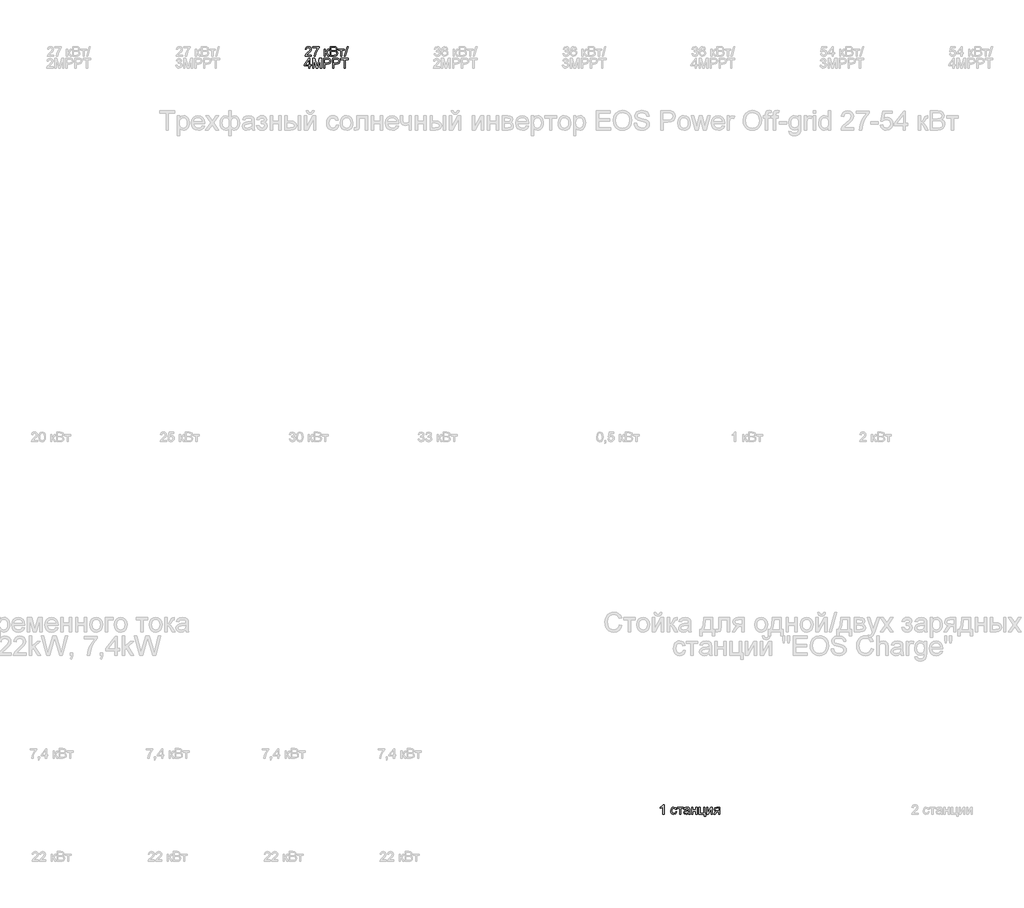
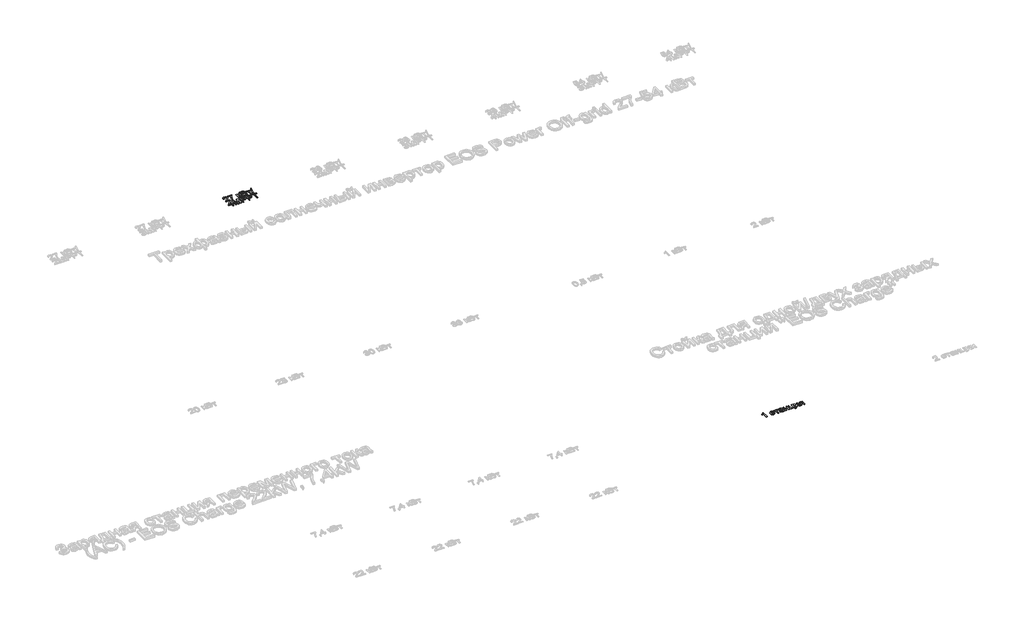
# One storey, part 7 of 26: 2 proxies.
"""IFC4 building model written with IfcOpenShell, lengths in millimetres."""

import ifcopenshell
import ifcopenshell.guid

model = None  # the IFC model being written
_history = None  # IfcOwnerHistory: only IFC2X3 demands one
_inside = {}  # id of a spatial element -> (the spatial element, [elements in it])
_under = {}  # id of a project, library or spatial element -> (it, [spatial elements below it])
_declared = {}  # id of a project -> (the project, [libraries it declares])
_typed = {}  # id of a type object -> (the type object, [elements of that type])
_made_of = {}  # id of a material, layer set ... -> (it, [elements and type objects made of it])


def new_model(schema):
    """Start an empty IFC model of exactly this schema.

    Asked for "IFC4X3", IfcOpenShell would pick the latest addendum, in which some entities
    have other attributes; the version numbers below select the first issue.
    IFC2X3 requires an IfcOwnerHistory on every rooted entity: one is made here for all.
    """
    global model, _history
    if schema == "IFC4X3":
        model = ifcopenshell.file(schema_version=(4, 3, 0, 0))
    else:
        model = ifcopenshell.file(schema=schema)
    _inside.clear()
    _under.clear()
    _declared.clear()
    _typed.clear()
    _made_of.clear()
    _history = None
    if model.schema == "IFC2X3":
        org = make("IfcOrganization", Name="unknown")
        user = make(
            "IfcPersonAndOrganization",
            ThePerson=make("IfcPerson", FamilyName="unknown"),
            TheOrganization=org,
        )
        app = make(
            "IfcApplication",
            ApplicationDeveloper=org,
            Version="unknown",
            ApplicationFullName="unknown",
            ApplicationIdentifier="unknown",
        )
        _history = make(
            "IfcOwnerHistory",
            OwningUser=user,
            OwningApplication=app,
            ChangeAction="ADDED",
            CreationDate=0,
        )
    return model


def make(cls, **values):
    """One entity of the class cls with the attributes given. An attribute that is None is left unset."""
    return model.create_entity(
        cls, **{name: value for name, value in values.items() if value is not None}
    )


def rooted(cls, **values):
    """An entity with a GlobalId (a new one), such as an element, a storey or a relation."""
    return make(cls, GlobalId=ifcopenshell.guid.new(), OwnerHistory=_history, **values)


def si_unit(unit_type, name, prefix=None):
    """IfcSIUnit, for example si_unit("LENGTHUNIT", "METRE", prefix="MILLI")."""
    return make("IfcSIUnit", UnitType=unit_type, Prefix=prefix, Name=name)


def assignment(units):
    """IfcUnitAssignment: the units of a project."""
    return None if units is None else make("IfcUnitAssignment", Units=units)


def point(xyz):
    """IfcCartesianPoint."""
    return None if xyz is None else make("IfcCartesianPoint", Coordinates=xyz)


def direction(xyz):
    """IfcDirection."""
    return None if xyz is None else make("IfcDirection", DirectionRatios=xyz)


def frame(location, z_axis=None, x_axis=None):
    """IfcAxis2Placement3D, a coordinate frame: its origin and axes. An axis left out is left unset."""
    return make(
        "IfcAxis2Placement3D",
        Location=point(location),
        Axis=direction(z_axis),
        RefDirection=direction(x_axis),
    )


def origin():
    """The frame at (0, 0, 0) with its axes left unset."""
    return frame((0.0, 0.0, 0.0))


def origin_with_axes():
    """The frame at (0, 0, 0) with the z axis (0, 0, 1) and the x axis (1, 0, 0) written out."""
    return frame((0.0, 0.0, 0.0), z_axis=(0.0, 0.0, 1.0), x_axis=(1.0, 0.0, 0.0))


def place(relative_to, where):
    """IfcLocalPlacement: puts the frame where relative to a parent placement (None: the world)."""
    return make(
        "IfcLocalPlacement", PlacementRelTo=relative_to, RelativePlacement=where
    )


def context(
    kind, dimensions, precision=None, world=None, true_north=None, identifier=None
):
    """IfcGeometricRepresentationContext, for example the 3D "Model" context."""
    return make(
        "IfcGeometricRepresentationContext",
        ContextIdentifier=identifier,
        ContextType=kind,
        CoordinateSpaceDimension=dimensions,
        Precision=precision,
        WorldCoordinateSystem=world,
        TrueNorth=true_north,
    )


def project(units=None, contexts=None):
    """IfcProject with its units and contexts."""
    return rooted(
        "IfcProject",
        Name="project",
        RepresentationContexts=contexts,
        UnitsInContext=assignment(units),
    )


def spatial(cls, under=None, at=None, **own):
    """A site, building, storey or space (cls), placed at a placement, below another one or the project."""
    s = rooted(cls, ObjectPlacement=at, **own)
    if under is not None:
        _under.setdefault(under.id(), (under, []))[1].append(s)
    return s


def polyline(points):
    """IfcPolyline through the points."""
    return make("IfcPolyline", Points=[point(p) for p in points])


def outline(outer, holes=None, kind="AREA"):
    """IfcArbitraryClosedProfileDef: a profile drawn as a closed curve; with holes, ...WithVoids."""
    if holes is None:
        return make("IfcArbitraryClosedProfileDef", ProfileType=kind, OuterCurve=outer)
    return make(
        "IfcArbitraryProfileDefWithVoids",
        ProfileType=kind,
        OuterCurve=outer,
        InnerCurves=holes,
    )


def extrude(swept, where, along, depth):
    """IfcExtrudedAreaSolid: the profile swept, set in the frame where, extruded along a direction by depth."""
    return make(
        "IfcExtrudedAreaSolid",
        SweptArea=swept,
        Position=where,
        ExtrudedDirection=direction(along),
        Depth=depth,
    )


def shape(context_of_items, identifier, shape_type, items):
    """IfcShapeRepresentation: the items that make up one representation, for example the "Body"."""
    return make(
        "IfcShapeRepresentation",
        ContextOfItems=context_of_items,
        RepresentationIdentifier=identifier,
        RepresentationType=shape_type,
        Items=items,
    )


def made_of(thing, what):
    """Note that an element or type object is made of a material, layer set ...; save() writes the relation."""
    if what is not None:
        _made_of.setdefault(what.id(), (what, []))[1].append(thing)
    return thing


def element(
    cls,
    number,
    at=None,
    inside=None,
    cuts=None,
    type_object=None,
    material=None,
    context=None,
    identifier="Body",
    shape_type=None,
    held_by="IfcProductDefinitionShape",
    body=None,
    shapes=None,
    **own,
):
    """One element of the class cls, such as IfcWall. Its Tag is "e" and its number.

    at: its placement. inside: the storey or other place that contains it. cuts: it is an
    opening in that element (IfcRelVoidsElement). A single representation is given by context,
    identifier, shape_type and body (its items); several are given by shapes. held_by: the class
    of the entity that holds the representations. save() writes the other relations.
    """
    e = rooted(cls, Tag="e%d" % number, ObjectPlacement=at, **own)
    if body is not None:
        shapes = [shape(context, identifier, shape_type, body)]
    if shapes is not None:
        e.Representation = make(held_by, Representations=shapes)
    if inside is not None:
        _inside.setdefault(inside.id(), (inside, []))[1].append(e)
    if cuts is not None:
        rooted(
            "IfcRelVoidsElement", RelatingBuildingElement=cuts, RelatedOpeningElement=e
        )
    if type_object is not None:
        _typed.setdefault(type_object.id(), (type_object, []))[1].append(e)
    return made_of(e, material)


def aggregate(whole, parts):
    """IfcRelAggregates: a whole, such as a stair, and the parts it consists of."""
    return rooted("IfcRelAggregates", RelatingObject=whole, RelatedObjects=parts)


def save(model, path):
    """Write the relations noted so far, then the file.

    IfcRelAggregates (storeys below a building ...), IfcRelContainedInSpatialStructure (elements
    in a storey), IfcRelDefinesByType, IfcRelAssociatesMaterial and IfcRelDeclares: one each for
    every whole, place, type object, material and project.
    """
    for whole, parts in _under.values():
        aggregate(whole, parts)
    for where, things in _inside.values():
        rooted(
            "IfcRelContainedInSpatialStructure",
            RelatedElements=things,
            RelatingStructure=where,
        )
    for kind, things in _typed.values():
        rooted("IfcRelDefinesByType", RelatedObjects=things, RelatingType=kind)
    for what, things in _made_of.values():
        rooted("IfcRelAssociatesMaterial", RelatedObjects=things, RelatingMaterial=what)
    for by, libraries in _declared.values():
        rooted("IfcRelDeclares", RelatingContext=by, RelatedDefinitions=libraries)
    model.write(path)


model = new_model("IFC4")

# Units and contexts
model_context = context("Model", 3, world=origin())
ifc_project = project(units=[si_unit("LENGTHUNIT", "METRE", prefix="MILLI")], contexts=[model_context])

# Site, building, storey
site = spatial("IfcSite", under=ifc_project)
building = spatial("IfcBuilding", under=site)
storey = spatial("IfcBuildingStorey", under=building, Name="Этаж 01", Elevation=0.0)

# Proxies
placement = place(None, origin())
element("IfcBuildingElementProxy", 1, Name="75 мм Arial", ObjectType="75 мм Arial", at=placement, inside=storey, context=model_context, shape_type="SweptSolid", body=[
    extrude(outline(polyline([(7255.824672, -16652.0992272), (7255.824672, -16661.5170063), (7206.3813318, -16661.5170063), (7207.3930073, -16655.0238891), (7213.1135723, -16645.0266959), (7224.9041903, -16634.1097977), (7241.1645745, -16618.4196306), (7245.2296705, -16607.7510527), (7241.3945007, -16599.1150229), (7231.3789134, -16595.5925528), (7220.9402618, -16599.0322494), (7216.9763333, -16608.541999), (7207.5585542, -16607.3647766), (7209.8417218, -16598.2550987), (7214.7782384, -16591.6010331), (7222.1105864, -16587.5313386), (7231.5812485, -16586.1747737), (7241.1208885, -16587.6830899), (7248.4394409, -16592.2080384), (7253.0954474, -16598.9678701), (7254.6474496, -16607.1808356), (7252.9735865, -16616.1111711), (7247.4093713, -16625.3450091), (7233.9172992, -16638.2484701), (7223.0831744, -16647.3075643), (7218.8341373, -16652.0992272), (7255.824672, -16652.0992272)])), origin_with_axes(), (0.0, 0.0, 1.0), 5.0),
    extrude(outline(polyline([(7265.242451, -16596.7697752), (7265.242451, -16587.3519961), (7314.6857912, -16587.3519961), (7314.6857912, -16594.9671534), (7300.6602901, -16615.2282543), (7289.9273329, -16641.0443733), (7286.432454, -16661.5170063), (7277.0146749, -16661.5170063), (7280.7578742, -16640.2718211), (7291.0309789, -16616.2583239), (7305.2680121, -16596.7697752), (7265.242451, -16596.7697752)])), origin_with_axes(), (0.0, 0.0, 1.0), 5.0),
    extrude(outline(polyline([(7354.7113523, -16606.1875542), (7364.1291313, -16606.1875542), (7364.1291313, -16629.7320019), (7370.4383076, -16628.0397448), (7375.6070496, -16618.1805073), (7379.9020719, -16609.6732362), (7383.6912564, -16606.9049241), (7390.5798468, -16606.1875542), (7392.3824686, -16606.1875542), (7392.3824686, -16615.6605156), (7389.8440828, -16615.6053333), (7385.2455579, -16616.5986147), (7382.0081963, -16622.7974263), (7378.2098147, -16629.5020757), (7372.8847228, -16632.7854225), (7384.6569467, -16644.1713703), (7394.7369133, -16661.5170063), (7384.0315473, -16661.5170063), (7374.1539157, -16644.5392522), (7369.1875088, -16637.3563563), (7364.1291313, -16635.6181139), (7364.1291313, -16661.5170063), (7354.7113523, -16661.5170063), (7354.7113523, -16606.1875542)])), origin_with_axes(), (0.0, 0.0, 1.0), 5.0),
    extrude(outline(polyline([(7401.8002476, -16661.5170063), (7401.8002476, -16586.1747737), (7430.5502256, -16586.1747737), (7444.6309089, -16588.3912627), (7452.945042, -16595.2062767), (7455.9524773, -16604.844785), (7453.4232886, -16613.6463617), (7445.7805402, -16620.3142229), (7455.0603635, -16627.340769), (7458.3069221, -16639.0578105), (7456.0904331, -16649.1837624), (7450.5997943, -16656.3942495), (7442.4052229, -16660.2202223), (7430.3294964, -16661.5170063), (7401.8002476, -16661.5170063)]), holes=[polyline([(7411.2180267, -16652.0992272), (7430.5318315, -16652.0992272), (7437.5215894, -16651.7313453), (7443.4352925, -16649.6804031), (7447.3532357, -16645.4957454), (7448.889143, -16639.149781), (7447.0865213, -16631.8289293), (7441.2463946, -16627.4603306), (7429.6121265, -16626.2003348), (7411.2180267, -16626.2003348), (7411.2180267, -16652.0992272)]), polyline([(7411.2180267, -16616.7825557), (7428.41651, -16616.7825557), (7438.4596885, -16615.9732153), (7444.5021502, -16612.4875334), (7446.5346983, -16606.3531011), (7444.640106, -16600.2094718), (7439.2138466, -16596.5766371), (7427.1105289, -16595.5925528), (7411.2180267, -16595.5925528), (7411.2180267, -16616.7825557)])]), origin_with_axes(), (0.0, 0.0, 1.0), 5.0),
    extrude(outline(polyline([(7465.3702564, -16606.1875542), (7510.104707, -16606.1875542), (7510.104707, -16615.6053333), (7492.4463713, -16615.6053333), (7492.4463713, -16661.5170063), (7483.0285922, -16661.5170063), (7483.0285922, -16615.6053333), (7465.3702564, -16615.6053333), (7465.3702564, -16606.1875542)])), origin_with_axes(), (0.0, 0.0, 1.0), 5.0),
    extrude(outline(polyline([(7511.2819294, -16661.5170063), (7532.4719323, -16586.1747737), (7540.9700064, -16586.1747737), (7519.7800035, -16661.5170063), (7511.2819294, -16661.5170063)])), origin_with_axes(), (0.0, 0.0, 1.0), 5.0),
    extrude(outline(polyline([(7234.0460578, -16752.9981197), (7234.0460578, -16735.3397839), (7199.9066087, -16735.3397839), (7199.9066087, -16725.9220049), (7236.4005026, -16678.8331095), (7243.4638369, -16678.8331095), (7243.4638369, -16725.9220049), (7252.881616, -16725.9220049), (7252.881616, -16735.3397839), (7243.4638369, -16735.3397839), (7243.4638369, -16752.9981197), (7234.0460578, -16752.9981197)]), holes=[polyline([(7234.0460578, -16725.9220049), (7234.0460578, -16696.822539), (7211.4948915, -16725.9220049), (7234.0460578, -16725.9220049)])]), origin_with_axes(), (0.0, 0.0, 1.0), 5.0),
    extrude(outline(polyline([(7264.6538398, -16752.9981197), (7264.6538398, -16677.6558871), (7280.8590417, -16677.6558871), (7296.2732973, -16730.7596531), (7299.3819002, -16741.8512953), (7302.7480204, -16729.8399481), (7317.9047586, -16677.6558871), (7334.1099605, -16677.6558871), (7334.1099605, -16752.9981197), (7324.6921815, -16752.9981197), (7324.6921815, -16687.0736662), (7305.7646528, -16752.9981197), (7292.9991476, -16752.9981197), (7274.0716189, -16687.0736662), (7274.0716189, -16752.9981197), (7264.6538398, -16752.9981197)])), origin_with_axes(), (0.0, 0.0, 1.0), 5.0),
    extrude(outline(polyline([(7350.5910739, -16752.9981197), (7350.5910739, -16677.6558871), (7378.5133174, -16677.6558871), (7389.7705064, -16678.373257), (7398.921571, -16681.8957271), (7404.8536682, -16689.1797906), (7407.0977484, -16699.4528953), (7405.5825344, -16708.332647), (7401.0368925, -16715.7316736), (7392.5365192, -16720.7256717), (7379.1571108, -16722.3903377), (7360.008853, -16722.3903377), (7360.008853, -16752.9981197), (7350.5910739, -16752.9981197)]), holes=[polyline([(7360.008853, -16712.9725586), (7379.7089338, -16712.9725586), (7393.5780851, -16709.5144679), (7397.6799693, -16699.7839891), (7395.2611452, -16691.9848908), (7388.9059837, -16687.7174597), (7379.4882046, -16687.0736662), (7360.008853, -16687.0736662), (7360.008853, -16712.9725586)])]), origin_with_axes(), (0.0, 0.0, 1.0), 5.0),
    extrude(outline(polyline([(7420.0471946, -16752.9981197), (7420.0471946, -16677.6558871), (7447.969438, -16677.6558871), (7459.2266271, -16678.373257), (7468.3776917, -16681.8957271), (7474.3097889, -16689.1797906), (7476.5538691, -16699.4528953), (7475.0386551, -16708.332647), (7470.4930132, -16715.7316736), (7461.9926398, -16720.7256717), (7448.6132315, -16722.3903377), (7429.4649737, -16722.3903377), (7429.4649737, -16752.9981197), (7420.0471946, -16752.9981197)]), holes=[polyline([(7429.4649737, -16712.9725586), (7449.1650545, -16712.9725586), (7463.0342057, -16709.5144679), (7467.13609, -16699.7839891), (7464.7172659, -16691.9848908), (7458.3621044, -16687.7174597), (7448.9443253, -16687.0736662), (7429.4649737, -16687.0736662), (7429.4649737, -16712.9725586)])]), origin_with_axes(), (0.0, 0.0, 1.0), 5.0),
    extrude(outline(polyline([(7508.3388735, -16752.9981197), (7508.3388735, -16687.0736662), (7483.6172034, -16687.0736662), (7483.6172034, -16677.6558871), (7542.4783226, -16677.6558871), (7542.4783226, -16687.0736662), (7517.7566525, -16687.0736662), (7517.7566525, -16752.9981197), (7508.3388735, -16752.9981197)])), origin_with_axes(), (0.0, 0.0, 1.0), 5.0),
])
element("IfcBuildingElementProxy", 2, Name="75 мм Arial", ObjectType="75 мм Arial", at=placement, inside=storey, context=model_context, shape_type="SweptSolid", body=[
    extrude(outline(polyline([(9991.9902297, -22548.3455817), (9982.5724507, -22548.3455817), (9982.5724507, -22489.6316153), (9973.6513123, -22495.9867768), (9963.7368925, -22500.7416515), (9963.7368925, -22491.8389073), (9977.5416644, -22483.0281335), (9985.9201768, -22473.0033491), (9991.9902297, -22473.0033491), (9991.9902297, -22548.3455817)])), origin_with_axes(), (0.0, 0.0, 1.0), 5.0),
    extrude(outline(polyline([(10081.459131, -22528.3328012), (10090.87691, -22529.5100236), (10083.316935, -22544.2161063), (10068.380926, -22549.5228041), (10058.3630395, -22547.6718978), (10050.5294522, -22542.119179), (10045.4733741, -22533.1083693), (10043.7880147, -22520.8831908), (10046.6666913, -22505.2390089), (10055.4406769, -22495.1866334), (10068.2521673, -22491.8389073), (10082.571974, -22496.4374322), (10089.6996877, -22509.497243), (10080.2819086, -22510.6744654), (10075.9133099, -22503.6203282), (10068.3257437, -22501.2566863), (10057.4088455, -22505.9103936), (10053.2057937, -22520.6256734), (10057.316875, -22535.4789089), (10068.0682263, -22540.105025), (10076.9433795, -22537.2171514), (10081.459131, -22528.3328012)])), origin_with_axes(), (0.0, 0.0, 1.0), 5.0),
    extrude(outline(polyline([(10094.4085772, -22493.0161296), (10139.1430278, -22493.0161296), (10139.1430278, -22502.4339087), (10121.484692, -22502.4339087), (10121.484692, -22548.3455817), (10112.066913, -22548.3455817), (10112.066913, -22502.4339087), (10094.4085772, -22502.4339087), (10094.4085772, -22493.0161296)])), origin_with_axes(), (0.0, 0.0, 1.0), 5.0),
    extrude(outline(polyline([(10182.700256, -22541.2822474), (10173.5675855, -22547.665), (10163.4784218, -22549.5228041), (10149.8024086, -22545.0530379), (10145.0291397, -22533.6303019), (10146.8317615, -22526.1806915), (10151.5682422, -22520.7728262), (10158.162527, -22517.6826174), (10166.3111132, -22516.2662717), (10182.6450737, -22513.0289102), (10182.700256, -22510.9319828), (10180.106688, -22503.9790131), (10169.6956275, -22501.2566863), (10160.1674838, -22503.0685052), (10155.6241412, -22509.497243), (10146.2063621, -22508.3200206), (10150.2806552, -22499.1229708), (10158.4844237, -22493.7334995), (10170.9096381, -22491.8389073), (10182.323177, -22493.5127703), (10188.770309, -22497.7158221), (10191.6581826, -22504.1077718), (10192.1180351, -22512.3483285), (10192.1180351, -22524.06537), (10192.5962817, -22540.4269218), (10194.4724799, -22548.3455817), (10185.0547008, -22548.3455817), (10182.700256, -22541.2822474)]), holes=[polyline([(10182.700256, -22522.4466893), (10167.5067296, -22525.3345629), (10159.4041287, -22526.8612732), (10155.7345058, -22529.3444767), (10154.4469188, -22532.9681143), (10157.252019, -22538.06328), (10165.4833787, -22540.105025), (10175.0115223, -22537.8517478), (10181.1551517, -22532.3978972), (10182.6450737, -22525.1138337), (10182.700256, -22522.4466893)])]), origin_with_axes(), (0.0, 0.0, 1.0), 5.0),
    extrude(outline(polyline([(10205.0674814, -22493.0161296), (10214.4852604, -22493.0161296), (10214.4852604, -22514.2061326), (10239.2069305, -22514.2061326), (10239.2069305, -22493.0161296), (10248.6247096, -22493.0161296), (10248.6247096, -22548.3455817), (10239.2069305, -22548.3455817), (10239.2069305, -22523.6239116), (10214.4852604, -22523.6239116), (10214.4852604, -22548.3455817), (10205.0674814, -22548.3455817), (10205.0674814, -22493.0161296)])), origin_with_axes(), (0.0, 0.0, 1.0), 5.0),
    extrude(outline(polyline([(10262.7513782, -22493.0161296), (10272.1691573, -22493.0161296), (10272.1691573, -22538.9278026), (10299.2452721, -22538.9278026), (10299.2452721, -22493.0161296), (10308.6630512, -22493.0161296), (10308.6630512, -22538.9278026), (10314.5491631, -22538.9278026), (10314.5491631, -22563.6494727), (10305.131384, -22563.6494727), (10305.131384, -22548.3455817), (10262.7513782, -22548.3455817), (10262.7513782, -22493.0161296)])), origin_with_axes(), (0.0, 0.0, 1.0), 5.0),
    extrude(outline(polyline([(10322.7897198, -22493.0161296), (10332.2074989, -22493.0161296), (10332.2074989, -22535.2121945), (10355.3472764, -22493.0161296), (10367.5241704, -22493.0161296), (10367.5241704, -22548.3455817), (10358.1063913, -22548.3455817), (10358.1063913, -22506.4070343), (10335.1137666, -22548.3455817), (10322.7897198, -22548.3455817), (10322.7897198, -22493.0161296)])), origin_with_axes(), (0.0, 0.0, 1.0), 5.0),
    extrude(outline(polyline([(10424.0308449, -22493.0161296), (10424.0308449, -22548.3455817), (10414.6130658, -22548.3455817), (10414.6130658, -22527.1555788), (10409.481112, -22527.1555788), (10402.4913541, -22528.3511953), (10395.9246604, -22536.3894169), (10388.4198677, -22548.3455817), (10377.5305607, -22548.3455817), (10386.985128, -22533.2256317), (10395.0049555, -22525.3897452), (10384.042072, -22519.6691802), (10380.4736167, -22509.0006023), (10385.3480531, -22497.4491077), (10399.4563276, -22493.0161296), (10424.0308449, -22493.0161296)]), holes=[polyline([(10414.6130658, -22502.4339087), (10402.1970485, -22502.4339087), (10392.1446729, -22504.6136095), (10389.8913957, -22509.7179722), (10393.2115307, -22515.7972222), (10404.9745575, -22517.7377997), (10414.6130658, -22517.7377997), (10414.6130658, -22502.4339087)])]), origin_with_axes(), (0.0, 0.0, 1.0), 5.0),
])

save(model, "model.ifc")
